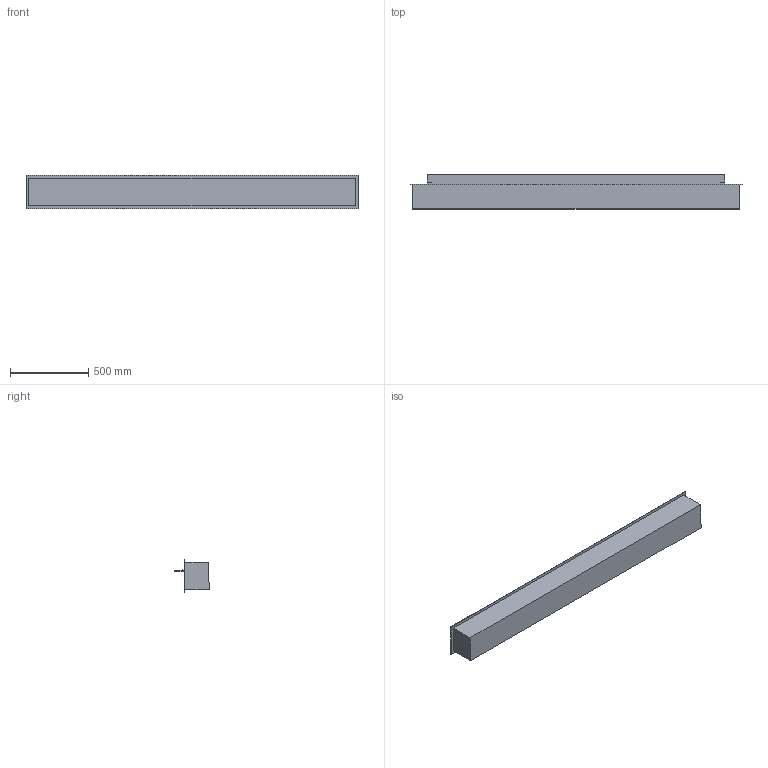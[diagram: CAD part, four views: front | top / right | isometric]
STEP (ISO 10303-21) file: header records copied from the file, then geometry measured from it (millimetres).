
FILE_DESCRIPTION (( 'STEP AP203' ), '1' );
FILE_NAME ('Denver F6 2120.STEP', '2024-03-13T09:22:20', ( '' ), ( '' ), 'SwSTEP 2.0', 'SolidWorks 2023', '' );
FILE_SCHEMA (( 'CONFIG_CONTROL_DESIGN' ));
Length unit declared in the file: millimetre
Products named in the file (1): Denver F6 2120
Bounding box: 2120 x 220 x 215 mm (x, y, z)
Volume: 59358419 mm3; surface area: 2677700 mm2
Topology: 8 solids, 8 shells, 68 faces, 156 edges, 104 vertices
Faces by surface type: plane 68
Entity records: 1955 total; most frequent: CARTESIAN_POINT 329, ORIENTED_EDGE 312, DIRECTION 294, EDGE_CURVE 156, LINE 156, VECTOR 156, VERTEX_POINT 104, EDGE_LOOP 74
